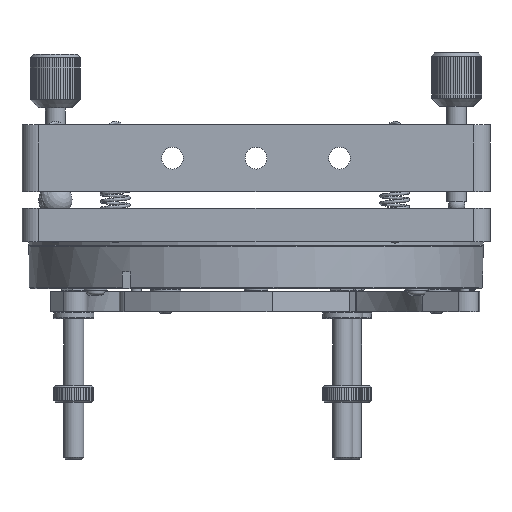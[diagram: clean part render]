
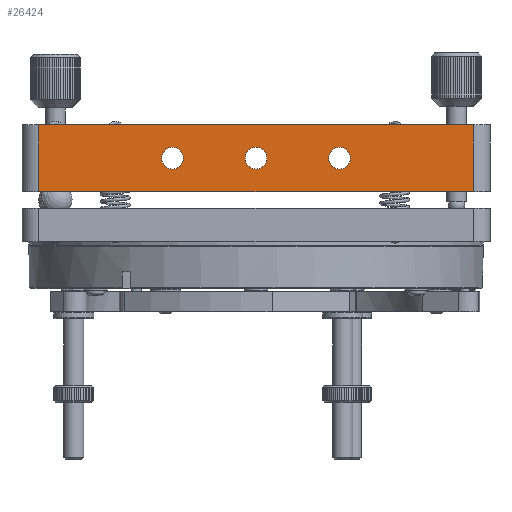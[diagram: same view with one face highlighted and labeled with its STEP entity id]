
A CAD part, front view. The second image highlights one B-rep face of the part: STEP entity #26424.
In plain terms, the highlighted planar face has unit normal (0, -1, 0).
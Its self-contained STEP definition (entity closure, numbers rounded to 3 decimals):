
#860=LINE($,#47123,#2869);
#880=LINE($,#47202,#2889);
#885=LINE($,#47224,#2894);
#944=LINE($,#48065,#2953);
#2869=VECTOR($,#33870,20.);
#2889=VECTOR($,#33934,130.);
#2894=VECTOR($,#33953,20.);
#2953=VECTOR($,#34268,130.);
#5043=FACE_BOUND($,#8111,.T.);
#5044=FACE_BOUND($,#8112,.T.);
#5045=FACE_BOUND($,#8113,.T.);
#5994=FACE_OUTER_BOUND($,#8110,.T.);
#8110=EDGE_LOOP($,(#19450,#19451,#19452,#19453));
#8111=EDGE_LOOP($,(#19454));
#8112=EDGE_LOOP($,(#19455));
#8113=EDGE_LOOP($,(#19456));
#10054=CIRCLE($,#28842,3.25);
#10057=CIRCLE($,#28848,3.25);
#10061=CIRCLE($,#28855,3.25);
#11665=VERTEX_POINT($,#47116);
#11668=VERTEX_POINT($,#47121);
#11705=VERTEX_POINT($,#47201);
#11715=VERTEX_POINT($,#47223);
#11735=VERTEX_POINT($,#47321);
#11739=VERTEX_POINT($,#47365);
#11743=VERTEX_POINT($,#47376);
#14310=EDGE_CURVE($,#11668,#11665,#860,.T.);
#14350=EDGE_CURVE($,#11705,#11665,#880,.T.);
#14361=EDGE_CURVE($,#11705,#11715,#885,.T.);
#14388=EDGE_CURVE($,#11735,#11735,#10054,.T.);
#14392=EDGE_CURVE($,#11739,#11739,#10057,.T.);
#14396=EDGE_CURVE($,#11743,#11743,#10061,.T.);
#14487=EDGE_CURVE($,#11715,#11668,#944,.T.);
#19450=ORIENTED_EDGE($,*,*,#14310,.F.);
#19451=ORIENTED_EDGE($,*,*,#14487,.F.);
#19452=ORIENTED_EDGE($,*,*,#14361,.F.);
#19453=ORIENTED_EDGE($,*,*,#14350,.T.);
#19454=ORIENTED_EDGE($,*,*,#14388,.T.);
#19455=ORIENTED_EDGE($,*,*,#14392,.T.);
#19456=ORIENTED_EDGE($,*,*,#14396,.T.);
#24746=PLANE($,#28936);
#26424=ADVANCED_FACE($,(#5994,#5043,#5044,#5045),#24746,.T.);
#28842=AXIS2_PLACEMENT_3D($,#47322,#34030,#34031);
#28848=AXIS2_PLACEMENT_3D($,#47366,#34042,#34043);
#28855=AXIS2_PLACEMENT_3D($,#47377,#34056,#34057);
#28936=AXIS2_PLACEMENT_3D($,#48064,#34266,#34267);
#33870=DIRECTION($,(0.,0.,1.));
#33934=DIRECTION($,(-1.,0.,0.));
#33953=DIRECTION($,(0.,0.,-1.));
#34030=DIRECTION('center_axis',(0.,1.,0.));
#34031=DIRECTION('ref_axis',(1.,0.,0.));
#34042=DIRECTION('center_axis',(0.,1.,0.));
#34043=DIRECTION('ref_axis',(1.,0.,0.));
#34056=DIRECTION('center_axis',(0.,1.,0.));
#34057=DIRECTION('ref_axis',(1.,0.,0.));
#34266=DIRECTION('center_axis',(0.,-1.,0.));
#34267=DIRECTION('ref_axis',(0.,0.,-1.));
#34268=DIRECTION($,(-1.,0.,0.));
#47116=CARTESIAN_POINT('',(5.,0.,20.));
#47121=CARTESIAN_POINT('',(5.,0.,0.));
#47123=CARTESIAN_POINT($,(5.,0.,0.));
#47201=CARTESIAN_POINT('',(135.,0.,20.));
#47202=CARTESIAN_POINT($,(140.,0.,20.));
#47223=CARTESIAN_POINT('',(135.,0.,0.));
#47224=CARTESIAN_POINT($,(135.,0.,0.));
#47321=CARTESIAN_POINT('',(66.75,0.,10.));
#47322=CARTESIAN_POINT('Origin',(70.,0.,10.));
#47365=CARTESIAN_POINT('',(41.75,0.,10.));
#47366=CARTESIAN_POINT('Origin',(45.,0.,10.));
#47376=CARTESIAN_POINT('',(91.75,0.,10.));
#47377=CARTESIAN_POINT('Origin',(95.,0.,10.));
#48064=CARTESIAN_POINT('Origin',(140.,0.,0.));
#48065=CARTESIAN_POINT($,(140.,0.,0.));
